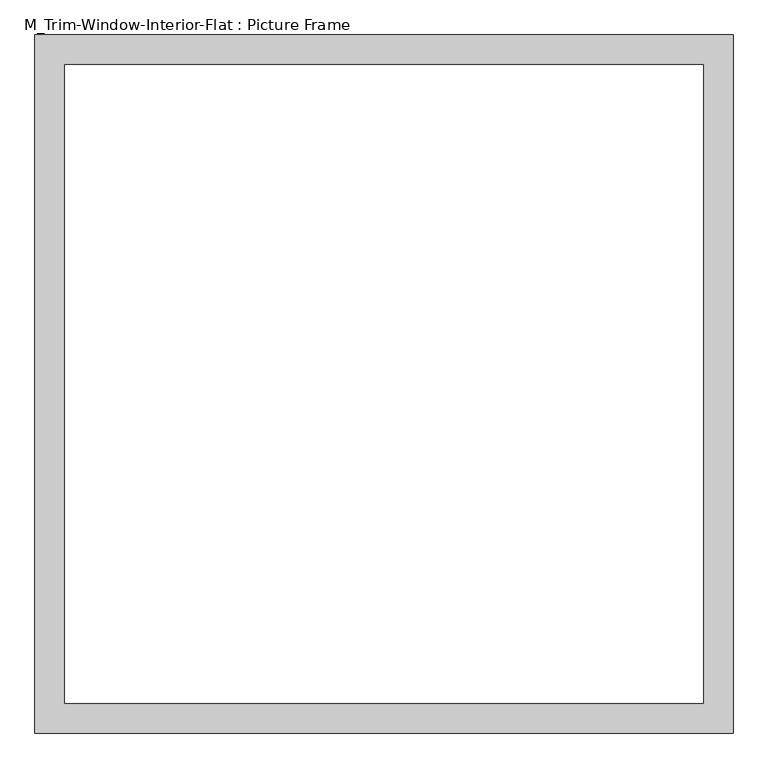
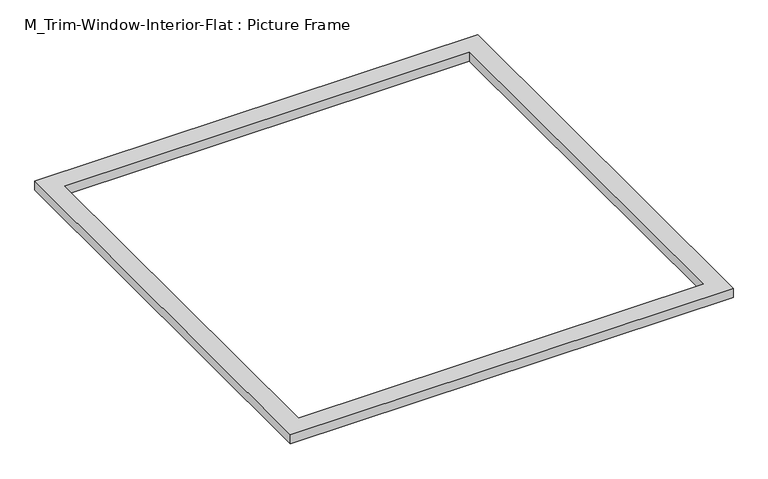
"""IFC4 building model written with IfcOpenShell, lengths in millimetres: proxy geometry, M_Trim-Window-Interior-Flat : Picture Frame."""

from ifc_helpers import new_model, si_unit, origin, origin_with_axes, place, context, project, spatial, polyline, outline, extrude, source, transform, mapped, element, save


def m_trim_window_interior_flat_picture_frame_8805ee71(model_context):
    return source(origin(), model_context, "Body", "SweptSolid", [
        extrude(outline(polyline([(697.3, 47.3), (697.3, -1347.3), (-697.3, -1347.3), (-697.3, 47.3), (697.3, 47.3)]), holes=[polyline([(637.3, -12.7), (-637.3, -12.7), (-637.3, -1287.3), (637.3, -1287.3), (637.3, -12.7)])]), origin_with_axes(), (0.0, 0.0, 1.0), 30.0),
    ])


if __name__ == "__main__":
    model = new_model("IFC4")
    model_context = context("Model", 3, world=origin())
    ifc_project = project(units=[si_unit("LENGTHUNIT", "METRE", prefix="MILLI")], contexts=[model_context])
    site = spatial("IfcSite", under=ifc_project)
    building = spatial("IfcBuilding", under=site)
    placement = place(None, origin())
    m_trim_window_interior_flat_picture_frame_shape = m_trim_window_interior_flat_picture_frame_8805ee71(model_context)
    element("IfcBuildingElementProxy", 1, Name="M_Trim-Window-Interior-Flat : Picture Frame", ObjectType="M_Trim-Window-Interior-Flat : Picture Frame", at=placement, inside=building, context=model_context, shape_type="MappedRepresentation", body=[
        mapped(m_trim_window_interior_flat_picture_frame_shape, transform((0.0, 0.0, 0.0), x_axis=(1.0, 0.0, 0.0), y_axis=(0.0, 1.0, 0.0), z_axis=(0.0, 0.0, 1.0))),
    ])
    save(model, "model.ifc")
